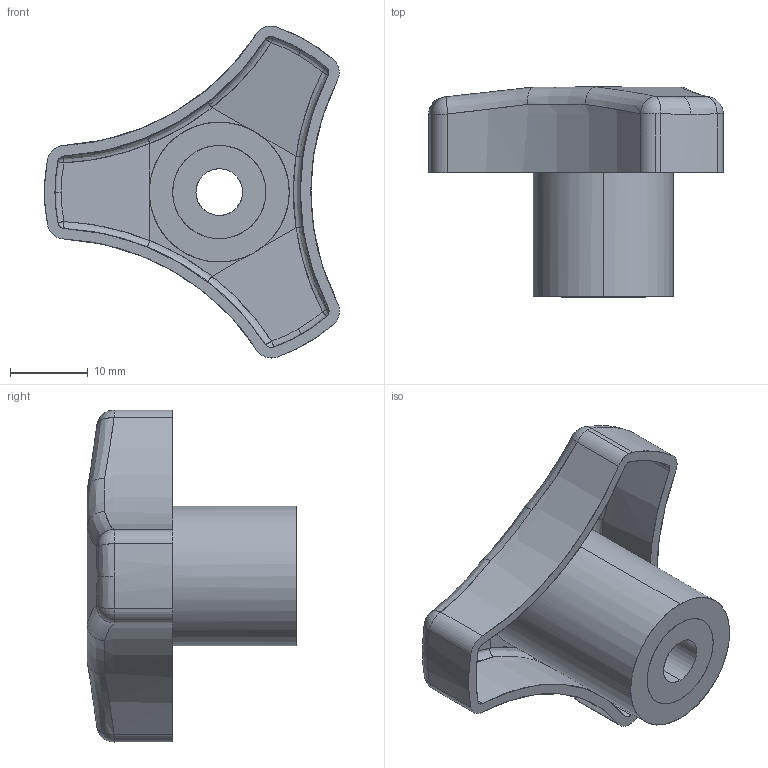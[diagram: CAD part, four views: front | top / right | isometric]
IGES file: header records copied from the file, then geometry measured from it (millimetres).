
Start section: SolidWorks IGES file using analytic representation for surfaces
Global section: file name: C:\Users\IanO\Desktop\Temp File\Process pending\70640_v2\70640_v2_20171022_IGES\70640.W0045.igs; native system: SolidWorks 2017; preprocessor: SolidWorks 2017; author: IanO; date: 171102.143210; units: millimetre
Bounding box: 37.98 x 27 x 42.73 mm (x, y, z)
Surface area: 7353.3 mm2 (no closed solid volume)
Topology: 0 solids, 0 shells, 93 faces, 1141 edges, 1141 vertices
Faces by surface type: revolution 48, bspline 45
